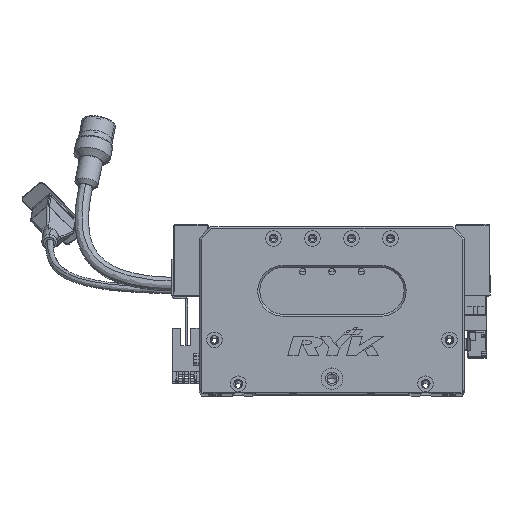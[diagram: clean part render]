
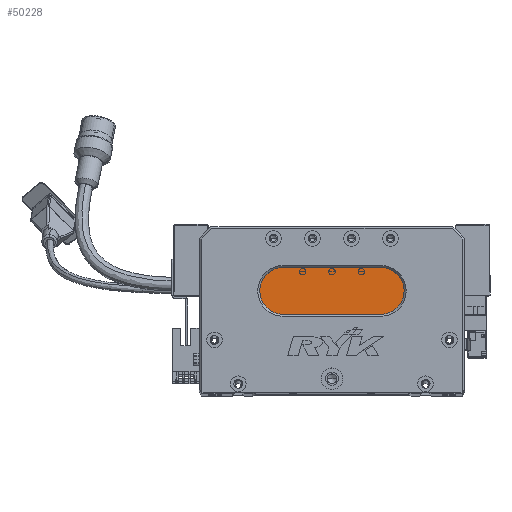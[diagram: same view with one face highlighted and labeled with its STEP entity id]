
A CAD part, top view. The second image highlights one B-rep face of the part: STEP entity #50228.
In plain terms, the highlighted planar face has unit normal (0, 0, 1) as drawn and (0, 0, -1) by its records, which use the part's own axes.
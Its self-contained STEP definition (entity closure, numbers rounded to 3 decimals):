
#2773 = ORIENTED_EDGE ( 'NONE', *, *, #22583, .T. ) ;
#6485 = LINE ( 'NONE', #10919, #34976 ) ;
#6607 = DIRECTION ( 'NONE',  ( 0., 0., -1. ) ) ;
#7104 = DIRECTION ( 'NONE',  ( 0., 0., -1. ) ) ;
#7715 = EDGE_CURVE ( 'NONE', #45273, #27144, #63777, .T. ) ;
#10748 = AXIS2_PLACEMENT_3D ( 'NONE', #20962, #33273, #76988 ) ;
#10919 = CARTESIAN_POINT ( 'NONE',  ( 93., 40., 13. ) ) ;
#12241 = CIRCLE ( 'NONE', #56574, 12. ) ;
#12862 = DIRECTION ( 'NONE',  ( -1., 0., 0. ) ) ;
#17467 = ORIENTED_EDGE ( 'NONE', *, *, #74867, .T. ) ;
#17615 = VERTEX_POINT ( 'NONE', #66721 ) ;
#17632 = CARTESIAN_POINT ( 'NONE',  ( 43., 64., 13. ) ) ;
#18839 = DIRECTION ( 'NONE',  ( 0., 0., -1. ) ) ;
#20962 = CARTESIAN_POINT ( 'NONE',  ( 93., 52., 13. ) ) ;
#22583 = EDGE_CURVE ( 'NONE', #17615, #45273, #6485, .T. ) ;
#24268 = AXIS2_PLACEMENT_3D ( 'NONE', #63319, #6607, #44997 ) ;
#25159 = ORIENTED_EDGE ( 'NONE', *, *, #7715, .T. ) ;
#26073 = VECTOR ( 'NONE', #32688, 1000. ) ;
#27144 = VERTEX_POINT ( 'NONE', #35594 ) ;
#29025 = CIRCLE ( 'NONE', #24268, 12. ) ;
#29810 = CARTESIAN_POINT ( 'NONE',  ( 43., 52., 13. ) ) ;
#32688 = DIRECTION ( 'NONE',  ( 1., 0., 0. ) ) ;
#33273 = DIRECTION ( 'NONE',  ( 0., 0., -1. ) ) ;
#34976 = VECTOR ( 'NONE', #48987, 1000. ) ;
#35594 = CARTESIAN_POINT ( 'NONE',  ( 31., 52., 13. ) ) ;
#44427 = FACE_OUTER_BOUND ( 'NONE', #56185, .T. ) ;
#44997 = DIRECTION ( 'NONE',  ( -1., 0., 0. ) ) ;
#45273 = VERTEX_POINT ( 'NONE', #70306 ) ;
#48987 = DIRECTION ( 'NONE',  ( -1., 0., 0. ) ) ;
#50228 = ADVANCED_FACE ( 'NONE', ( #44427 ), #70730, .T. ) ;
#50450 = CARTESIAN_POINT ( 'NONE',  ( 93., 64., 13. ) ) ;
#56185 = EDGE_LOOP ( 'NONE', ( #69810, #2773, #25159, #56571, #17467 ) ) ;
#56571 = ORIENTED_EDGE ( 'NONE', *, *, #63740, .T. ) ;
#56574 = AXIS2_PLACEMENT_3D ( 'NONE', #75805, #7104, #12862 ) ;
#57369 = AXIS2_PLACEMENT_3D ( 'NONE', #29810, #18839, #72972 ) ;
#59304 = LINE ( 'NONE', #50450, #26073 ) ;
#63319 = CARTESIAN_POINT ( 'NONE',  ( 93., 52., 13. ) ) ;
#63740 = EDGE_CURVE ( 'NONE', #27144, #77164, #12241, .T. ) ;
#63777 = CIRCLE ( 'NONE', #57369, 12. ) ;
#64070 = VERTEX_POINT ( 'NONE', #64835 ) ;
#64835 = CARTESIAN_POINT ( 'NONE',  ( 93., 64., 13. ) ) ;
#66721 = CARTESIAN_POINT ( 'NONE',  ( 93., 40., 13. ) ) ;
#69810 = ORIENTED_EDGE ( 'NONE', *, *, #74853, .T. ) ;
#70306 = CARTESIAN_POINT ( 'NONE',  ( 43., 40., 13. ) ) ;
#70730 = PLANE ( 'NONE',  #10748 ) ;
#72972 = DIRECTION ( 'NONE',  ( -1., 0., 0. ) ) ;
#74853 = EDGE_CURVE ( 'NONE', #64070, #17615, #29025, .T. ) ;
#74867 = EDGE_CURVE ( 'NONE', #77164, #64070, #59304, .T. ) ;
#75805 = CARTESIAN_POINT ( 'NONE',  ( 43., 52., 13. ) ) ;
#76988 = DIRECTION ( 'NONE',  ( -1., 0., 0. ) ) ;
#77164 = VERTEX_POINT ( 'NONE', #17632 ) ;
